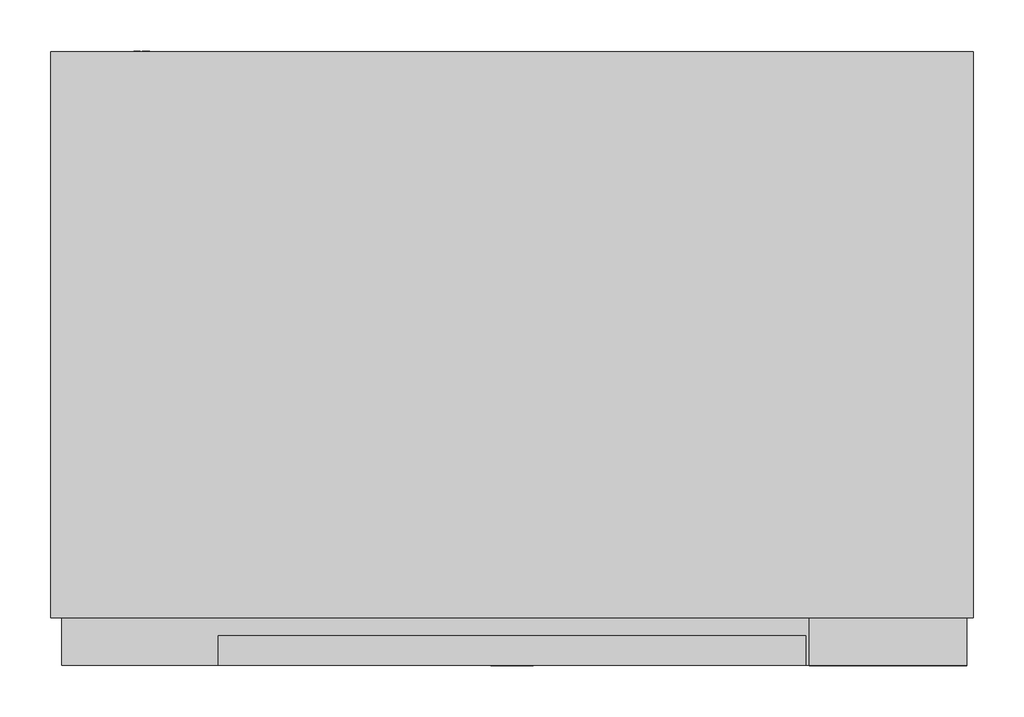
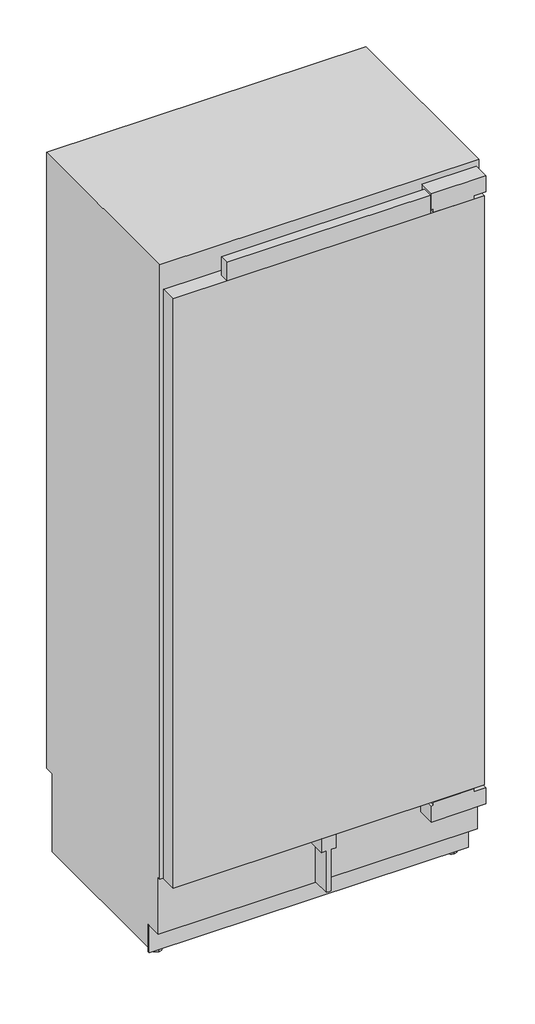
# Not in any storey: 1 proxy.
"""IFC4 building model written with IfcOpenShell, lengths in millimetres."""

import ifcopenshell
import ifcopenshell.guid

model = None  # the IFC model being written
_history = None  # IfcOwnerHistory: only IFC2X3 demands one
_inside = {}  # id of a spatial element -> (the spatial element, [elements in it])
_under = {}  # id of a project, library or spatial element -> (it, [spatial elements below it])
_declared = {}  # id of a project -> (the project, [libraries it declares])
_typed = {}  # id of a type object -> (the type object, [elements of that type])
_made_of = {}  # id of a material, layer set ... -> (it, [elements and type objects made of it])


def new_model(schema):
    """Start an empty IFC model of exactly this schema.

    Asked for "IFC4X3", IfcOpenShell would pick the latest addendum, in which some entities
    have other attributes; the version numbers below select the first issue.
    IFC2X3 requires an IfcOwnerHistory on every rooted entity: one is made here for all.
    """
    global model, _history
    if schema == "IFC4X3":
        model = ifcopenshell.file(schema_version=(4, 3, 0, 0))
    else:
        model = ifcopenshell.file(schema=schema)
    _inside.clear()
    _under.clear()
    _declared.clear()
    _typed.clear()
    _made_of.clear()
    _history = None
    if model.schema == "IFC2X3":
        org = make("IfcOrganization", Name="unknown")
        user = make(
            "IfcPersonAndOrganization",
            ThePerson=make("IfcPerson", FamilyName="unknown"),
            TheOrganization=org,
        )
        app = make(
            "IfcApplication",
            ApplicationDeveloper=org,
            Version="unknown",
            ApplicationFullName="unknown",
            ApplicationIdentifier="unknown",
        )
        _history = make(
            "IfcOwnerHistory",
            OwningUser=user,
            OwningApplication=app,
            ChangeAction="ADDED",
            CreationDate=0,
        )
    return model


def make(cls, **values):
    """One entity of the class cls with the attributes given. An attribute that is None is left unset."""
    return model.create_entity(
        cls, **{name: value for name, value in values.items() if value is not None}
    )


def rooted(cls, **values):
    """An entity with a GlobalId (a new one), such as an element, a storey or a relation."""
    return make(cls, GlobalId=ifcopenshell.guid.new(), OwnerHistory=_history, **values)


def si_unit(unit_type, name, prefix=None):
    """IfcSIUnit, for example si_unit("LENGTHUNIT", "METRE", prefix="MILLI")."""
    return make("IfcSIUnit", UnitType=unit_type, Prefix=prefix, Name=name)


def assignment(units):
    """IfcUnitAssignment: the units of a project."""
    return None if units is None else make("IfcUnitAssignment", Units=units)


def point(xyz):
    """IfcCartesianPoint."""
    return None if xyz is None else make("IfcCartesianPoint", Coordinates=xyz)


def direction(xyz):
    """IfcDirection."""
    return None if xyz is None else make("IfcDirection", DirectionRatios=xyz)


def frame(location, z_axis=None, x_axis=None):
    """IfcAxis2Placement3D, a coordinate frame: its origin and axes. An axis left out is left unset."""
    return make(
        "IfcAxis2Placement3D",
        Location=point(location),
        Axis=direction(z_axis),
        RefDirection=direction(x_axis),
    )


def frame_2d(location, x_axis=None):
    """IfcAxis2Placement2D, a coordinate frame in the plane: its origin and x axis."""
    return make(
        "IfcAxis2Placement2D", Location=point(location), RefDirection=direction(x_axis)
    )


def origin():
    """The frame at (0, 0, 0) with its axes left unset."""
    return frame((0.0, 0.0, 0.0))


def place(relative_to, where):
    """IfcLocalPlacement: puts the frame where relative to a parent placement (None: the world)."""
    return make(
        "IfcLocalPlacement", PlacementRelTo=relative_to, RelativePlacement=where
    )


def context(
    kind, dimensions, precision=None, world=None, true_north=None, identifier=None
):
    """IfcGeometricRepresentationContext, for example the 3D "Model" context."""
    return make(
        "IfcGeometricRepresentationContext",
        ContextIdentifier=identifier,
        ContextType=kind,
        CoordinateSpaceDimension=dimensions,
        Precision=precision,
        WorldCoordinateSystem=world,
        TrueNorth=true_north,
    )


def project(units=None, contexts=None):
    """IfcProject with its units and contexts."""
    return rooted(
        "IfcProject",
        Name="project",
        RepresentationContexts=contexts,
        UnitsInContext=assignment(units),
    )


def spatial(cls, under=None, at=None, **own):
    """A site, building, storey or space (cls), placed at a placement, below another one or the project."""
    s = rooted(cls, ObjectPlacement=at, **own)
    if under is not None:
        _under.setdefault(under.id(), (under, []))[1].append(s)
    return s


def polyline(points):
    """IfcPolyline through the points."""
    return make("IfcPolyline", Points=[point(p) for p in points])


def circle_curve(where, radius):
    """IfcCircle in the frame where."""
    return make("IfcCircle", Position=where, Radius=radius)


def trimmed(basis, trim1, trim2, sense, master):
    """IfcTrimmedCurve: the piece of a basis curve between two trims."""
    return make(
        "IfcTrimmedCurve",
        BasisCurve=basis,
        Trim1=trim1,
        Trim2=trim2,
        SenseAgreement=sense,
        MasterRepresentation=master,
    )


def segment(curve, same_sense, transition):
    """IfcCompositeCurveSegment."""
    return make(
        "IfcCompositeCurveSegment",
        Transition=transition,
        SameSense=same_sense,
        ParentCurve=curve,
    )


def composite_curve(segments, self_intersect=None):
    """IfcCompositeCurve: segments joined end to end."""
    return make("IfcCompositeCurve", Segments=segments, SelfIntersect=self_intersect)


def outline(outer, holes=None, kind="AREA"):
    """IfcArbitraryClosedProfileDef: a profile drawn as a closed curve; with holes, ...WithVoids."""
    if holes is None:
        return make("IfcArbitraryClosedProfileDef", ProfileType=kind, OuterCurve=outer)
    return make(
        "IfcArbitraryProfileDefWithVoids",
        ProfileType=kind,
        OuterCurve=outer,
        InnerCurves=holes,
    )


def extrude(swept, where, along, depth):
    """IfcExtrudedAreaSolid: the profile swept, set in the frame where, extruded along a direction by depth."""
    return make(
        "IfcExtrudedAreaSolid",
        SweptArea=swept,
        Position=where,
        ExtrudedDirection=direction(along),
        Depth=depth,
    )


def shape(context_of_items, identifier, shape_type, items):
    """IfcShapeRepresentation: the items that make up one representation, for example the "Body"."""
    return make(
        "IfcShapeRepresentation",
        ContextOfItems=context_of_items,
        RepresentationIdentifier=identifier,
        RepresentationType=shape_type,
        Items=items,
    )


def source(mapping_origin, context_of_items, identifier, shape_type, items):
    """IfcRepresentationMap: a shape defined once, which mapped items show again and again."""
    return make(
        "IfcRepresentationMap",
        MappingOrigin=mapping_origin,
        MappedRepresentation=shape(context_of_items, identifier, shape_type, items),
    )


def transform(
    local_origin,
    x_axis=None,
    y_axis=None,
    z_axis=None,
    scale=None,
    scale2=None,
    scale3=None,
    uniform=True,
):
    """IfcCartesianTransformationOperator3D, or its non-uniform kind. x_axis, y_axis, z_axis: its Axis1, 2, 3."""
    if uniform:
        return make(
            "IfcCartesianTransformationOperator3D",
            Axis1=direction(x_axis),
            Axis2=direction(y_axis),
            LocalOrigin=point(local_origin),
            Scale=scale,
            Axis3=direction(z_axis),
        )
    return make(
        "IfcCartesianTransformationOperator3DnonUniform",
        Axis1=direction(x_axis),
        Axis2=direction(y_axis),
        LocalOrigin=point(local_origin),
        Scale=scale,
        Axis3=direction(z_axis),
        Scale2=scale2,
        Scale3=scale3,
    )


def mapped(mapping_source, mapping_target):
    """IfcMappedItem: shows the shape of a source again, moved by a transform."""
    return make(
        "IfcMappedItem", MappingSource=mapping_source, MappingTarget=mapping_target
    )


def made_of(thing, what):
    """Note that an element or type object is made of a material, layer set ...; save() writes the relation."""
    if what is not None:
        _made_of.setdefault(what.id(), (what, []))[1].append(thing)
    return thing


def element(
    cls,
    number,
    at=None,
    inside=None,
    cuts=None,
    type_object=None,
    material=None,
    context=None,
    identifier="Body",
    shape_type=None,
    held_by="IfcProductDefinitionShape",
    body=None,
    shapes=None,
    **own,
):
    """One element of the class cls, such as IfcWall. Its Tag is "e" and its number.

    at: its placement. inside: the storey or other place that contains it. cuts: it is an
    opening in that element (IfcRelVoidsElement). A single representation is given by context,
    identifier, shape_type and body (its items); several are given by shapes. held_by: the class
    of the entity that holds the representations. save() writes the other relations.
    """
    e = rooted(cls, Tag="e%d" % number, ObjectPlacement=at, **own)
    if body is not None:
        shapes = [shape(context, identifier, shape_type, body)]
    if shapes is not None:
        e.Representation = make(held_by, Representations=shapes)
    if inside is not None:
        _inside.setdefault(inside.id(), (inside, []))[1].append(e)
    if cuts is not None:
        rooted(
            "IfcRelVoidsElement", RelatingBuildingElement=cuts, RelatedOpeningElement=e
        )
    if type_object is not None:
        _typed.setdefault(type_object.id(), (type_object, []))[1].append(e)
    return made_of(e, material)


def aggregate(whole, parts):
    """IfcRelAggregates: a whole, such as a stair, and the parts it consists of."""
    return rooted("IfcRelAggregates", RelatingObject=whole, RelatedObjects=parts)


def save(model, path):
    """Write the relations noted so far, then the file.

    IfcRelAggregates (storeys below a building ...), IfcRelContainedInSpatialStructure (elements
    in a storey), IfcRelDefinesByType, IfcRelAssociatesMaterial and IfcRelDeclares: one each for
    every whole, place, type object, material and project.
    """
    for whole, parts in _under.values():
        aggregate(whole, parts)
    for where, things in _inside.values():
        rooted(
            "IfcRelContainedInSpatialStructure",
            RelatedElements=things,
            RelatingStructure=where,
        )
    for kind, things in _typed.values():
        rooted("IfcRelDefinesByType", RelatedObjects=things, RelatingType=kind)
    for what, things in _made_of.values():
        rooted("IfcRelAssociatesMaterial", RelatedObjects=things, RelatingMaterial=what)
    for by, libraries in _declared.values():
        rooted("IfcRelDeclares", RelatingContext=by, RelatedDefinitions=libraries)
    model.write(path)


def plane_surface(at):
    """IfcPlane: the flat surface through the origin of the frame at, square to its z axis."""
    return make("IfcPlane", Position=at)


def cylinder_surface(at, radius):
    """IfcCylindricalSurface: all points at the distance radius from the z axis of the frame at."""
    return make("IfcCylindricalSurface", Position=at, Radius=radius)


def advanced_brep(points, edges, surfaces, faces):
    """IfcAdvancedBrep: a solid bounded by faces that lie on surfaces and meet in shared edges.

    An edge is (start, end): straight between two places in points (the first is 0);
    or (start, end, curve); or (start, end, curve, False) where it runs against its curve.
    A face is (place in surfaces, loops), or (place, loops, False) where it looks against
    its surface's normal. A loop lists edges by number (the first is 1), with a minus sign
    where the edge is run from its end to its start. The first loop is the outer one.
    """
    corners = [point(p) for p in points]
    vertices = [make("IfcVertexPoint", VertexGeometry=c) for c in corners]
    made = []
    for start, end, *more in edges:
        made.append(
            make(
                "IfcEdgeCurve",
                EdgeStart=vertices[start],
                EdgeEnd=vertices[end],
                EdgeGeometry=more[0] if more else make("IfcPolyline", Points=[corners[start], corners[end]]),
                SameSense=more[1] if len(more) > 1 else True,
            )
        )
    hull = []
    for where, loops, *sense in faces:
        bounds = []
        for j, loop in enumerate(loops):
            ring = [make("IfcOrientedEdge", EdgeElement=made[abs(k) - 1], Orientation=k > 0) for k in loop]
            bounds.append(
                make(
                    "IfcFaceOuterBound" if j == 0 else "IfcFaceBound",
                    Bound=make("IfcEdgeLoop", EdgeList=ring),
                    Orientation=True,
                )
            )
        hull.append(make("IfcAdvancedFace", Bounds=bounds, FaceSurface=surfaces[where], SameSense=sense[0] if sense else True))
    return make("IfcAdvancedBrep", Outer=make("IfcClosedShell", CfsFaces=hull))


def specialty_equipment_2c75883b(model_context):
    return source(origin(), model_context, "Body", "SolidModel", [
        extrude(outline(polyline([(-443.0, 47.0), (443.0, 47.0), (443.0, 0.0), (-443.0, 0.0), (-443.0, 47.0)])), frame((0.0, 0.0, 265.0), z_axis=(0.0, 0.0, 1.0), x_axis=(1.0, 0.0, 0.0)), (0.0, 0.0, 1.0), 1771.0),
        extrude(outline(polyline([(-289.0, 29.0), (289.0, 29.0), (289.0, 0.0), (-289.0, 0.0), (-289.0, 29.0)])), frame((0.0, 0.0, 2036.0), z_axis=(0.0, 0.0, 1.0), x_axis=(1.0, 0.0, 0.0)), (0.0, 0.0, 1.0), 56.0),
        extrude(outline(polyline([(265.0, 21.0), (265.0, 0.0), (265.0, -21.0), (224.0, -21.0), (224.0, -6.5), (99.0, -6.5), (99.0, 0.0), (99.0, 6.5), (224.0, 6.5), (224.0, 21.0), (265.0, 21.0)])), frame((0.0, 0.0, 0.0), z_axis=(0.0, 1.0, 0.0), x_axis=(0.0, 0.0, 1.0)), (0.0, 0.0, 1.0), 54.0),
        extrude(outline(polyline([(87.0, 1998.0), (544.0, 1998.0), (544.0, 1791.0), (475.0, 1791.0), (447.0, 1868.0), (201.3701279, 1868.0), (156.3150905, 1940.0880598), (87.0, 1949.0), (87.0, 1998.0)])), frame((-408.0, 0.0, 0.0), z_axis=(1.0, 0.0, 0.0), x_axis=(0.0, 1.0, 0.0)), (0.0, 0.0, 1.0), 816.0),
        extrude(outline(polyline([(196.9886114, 1875.0), (195.809433, 1875.0), (158.6921935, 1934.4), (159.8713719, 1934.4), (196.9886114, 1875.0)])), frame((-69.0, 0.0, 0.0), z_axis=(1.0, 0.0, 0.0), x_axis=(0.0, 1.0, 0.0)), (0.0, 0.0, 1.0), 138.0),
        extrude(outline(polyline([(2095.0, 447.5), (2095.0, 292.5), (2047.0, 292.5), (2047.0, 298.5), (2036.5, 298.5), (2036.5, 413.5), (2047.0, 413.5), (2047.0, 447.5), (2095.0, 447.5)])), frame((0.0, 0.0, 0.0), z_axis=(0.0, 1.0, 0.0), x_axis=(0.0, 0.0, 1.0)), (0.0, 0.0, 1.0), 47.0),
        extrude(outline(polyline([(254.0, 292.5), (206.0, 292.5), (206.0, 447.5), (254.0, 447.5), (254.0, 413.5), (264.0, 413.5), (264.0, 298.5), (254.0, 298.5), (254.0, 292.5)])), frame((0.0, 0.0, 0.0), z_axis=(0.0, 1.0, 0.0), x_axis=(0.0, 0.0, 1.0)), (0.0, 0.0, 1.0), 54.0),
        extrude(outline(polyline([(99.0373308, -363.7645771), (97.7615342, -363.7645771), (97.7615342, -357.8195541), (94.7968516, -357.8195541), (94.7968516, -363.469579), (93.5246295, -363.469579), (93.5246295, -357.8415693), (90.2570046, -357.8415693), (90.2570046, -363.9619689), (88.9546219, -363.9619689), (88.9546219, -356.5443524), (99.0373308, -356.5443524), (99.0373308, -363.7645771)])), frame((0.0, 604.0, 0.0), z_axis=(0.0, 1.0, 0.0), x_axis=(0.0, 0.0, 1.0)), (0.0, 0.0, 1.0), 1.0),
        extrude(outline(polyline([(99.0458, -367.0619704), (90.2663944, -367.0619704), (90.2663944, -372.1145879), (89.0134802, -372.1145879), (89.0134802, -365.8423809), (99.0458, -365.8423809), (99.0458, -367.0619704)])), frame((0.0, 604.0, 0.0), z_axis=(0.0, 1.0, 0.0), x_axis=(0.0, 0.0, 1.0)), (0.0, 0.0, 1.0), 1.0),
        extrude(outline(composite_curve([segment(trimmed(circle_curve(frame_2d((94.0, -364.0)), 7.5), [point((86.5, -364.0))], [point((101.5, -364.0))], False, "CARTESIAN"), True, "CONTINUOUS"), segment(trimmed(circle_curve(frame_2d((94.0, -364.0)), 7.5), [point((101.5, -364.0))], [point((86.5, -364.0))], False, "CARTESIAN"), True, "CONTINUOUS")], self_intersect=False)), frame((0.0, 577.0, 0.0), z_axis=(0.0, 1.0, 0.0), x_axis=(0.0, 0.0, 1.0)), (0.0, 0.0, 1.0), 27.0),
        extrude(outline(polyline([(-454.0, 104.0), (454.0, 104.0), (454.0, 99.0), (-454.0, 99.0), (-454.0, 104.0)])), frame((0.0, 0.0, 14.0), z_axis=(0.0, 0.0, 1.0), x_axis=(1.0, 0.0, 0.0)), (0.0, 0.0, 1.0), 83.0),
        advanced_brep(
        [(-420.0, 139.0, 0.0), (-420.0, 109.0, 0.0), (-420.0, 139.0, 7.0), (-420.0, 109.0, 7.0), (-420.0, 128.7, 7.0), (-420.0, 119.3, 7.0), (-420.0, 128.7, 28.0), (-420.0, 119.3, 28.0)],
        [
            (0, 1, circle_curve(frame((-420.0, 124.0, 0.0), z_axis=(0.0, 0.0, -1.0), x_axis=(1.0, 0.0, 0.0)), 15.0)),
            (1, 0, circle_curve(frame((-420.0, 124.0, 0.0), z_axis=(0.0, 0.0, -1.0), x_axis=(1.0, 0.0, 0.0)), 15.0)),
            (2, 3, circle_curve(frame((-420.0, 124.0, 7.0), z_axis=(0.0, 0.0, 1.0), x_axis=(1.0, 0.0, 0.0)), 15.0)),
            (3, 2, circle_curve(frame((-420.0, 124.0, 7.0), z_axis=(0.0, 0.0, 1.0), x_axis=(1.0, 0.0, 0.0)), 15.0)),
            (4, 5, circle_curve(frame((-420.0, 124.0, 7.0), z_axis=(0.0, 0.0, -1.0), x_axis=(0.0, -1.0, 0.0)), 4.7)),
            (5, 4, circle_curve(frame((-420.0, 124.0, 7.0), z_axis=(0.0, 0.0, -1.0), x_axis=(0.0, -1.0, 0.0)), 4.7)),
            (0, 2),
            (3, 1),
            (6, 7, circle_curve(frame((-420.0, 124.0, 28.0), z_axis=(0.0, 0.0, 1.0), x_axis=(0.0, -1.0, 0.0)), 4.7)),
            (7, 6, circle_curve(frame((-420.0, 124.0, 28.0), z_axis=(0.0, 0.0, 1.0), x_axis=(0.0, -1.0, 0.0)), 4.7)),
            (7, 5),
            (4, 6),
        ],
        [
            plane_surface(frame((-405.0, 124.0, 0.0), z_axis=(0.0, 0.0, -1.0), x_axis=(0.0, -1.0, 0.0))),
            plane_surface(frame((-405.0, 124.0, 7.0), z_axis=(0.0, 0.0, 1.0), x_axis=(0.0, 1.0, 0.0))),
            cylinder_surface(frame((-420.0, 124.0, 7.0), z_axis=(0.0, 0.0, -1.0), x_axis=(1.0, 0.0, 0.0)), 15.0),
            plane_surface(frame((-420.0, 119.3, 28.0), z_axis=(0.0, 0.0, 1.0), x_axis=(1.0, 0.0, 0.0))),
            cylinder_surface(frame((-420.0, 124.0, 28.0), z_axis=(0.0, 0.0, -1.0), x_axis=(0.0, -1.0, 0.0)), 4.7),
        ],
        [
            (0, [[1, 2]]),
            (1, [[3, 4], [5, 6]]),
            (2, [[-1, 7, -4, 8]]),
            (2, [[-2, -8, -3, -7]]),
            (3, [[9, 10]]),
            (4, [[-10, 11, -5, 12]]),
            (4, [[-9, -12, -6, -11]]),
        ],
    ),
        advanced_brep(
        [(420.0, 139.0, 0.0), (420.0, 109.0, 0.0), (420.0, 139.0, 7.0), (420.0, 109.0, 7.0), (420.0, 128.7, 7.0), (420.0, 119.3, 7.0), (420.0, 128.7, 28.0), (420.0, 119.3, 28.0)],
        [
            (0, 1, circle_curve(frame((420.0, 124.0, 0.0), z_axis=(0.0, 0.0, -1.0), x_axis=(1.0, 0.0, 0.0)), 15.0)),
            (1, 0, circle_curve(frame((420.0, 124.0, 0.0), z_axis=(0.0, 0.0, -1.0), x_axis=(1.0, 0.0, 0.0)), 15.0)),
            (2, 3, circle_curve(frame((420.0, 124.0, 7.0), z_axis=(0.0, 0.0, 1.0), x_axis=(1.0, 0.0, 0.0)), 15.0)),
            (3, 2, circle_curve(frame((420.0, 124.0, 7.0), z_axis=(0.0, 0.0, 1.0), x_axis=(1.0, 0.0, 0.0)), 15.0)),
            (4, 5, circle_curve(frame((420.0, 124.0, 7.0), z_axis=(0.0, 0.0, -1.0), x_axis=(0.0, -1.0, 0.0)), 4.7)),
            (5, 4, circle_curve(frame((420.0, 124.0, 7.0), z_axis=(0.0, 0.0, -1.0), x_axis=(0.0, -1.0, 0.0)), 4.7)),
            (0, 2),
            (3, 1),
            (6, 7, circle_curve(frame((420.0, 124.0, 28.0), z_axis=(0.0, 0.0, 1.0), x_axis=(0.0, -1.0, 0.0)), 4.7)),
            (7, 6, circle_curve(frame((420.0, 124.0, 28.0), z_axis=(0.0, 0.0, 1.0), x_axis=(0.0, -1.0, 0.0)), 4.7)),
            (7, 5),
            (4, 6),
        ],
        [
            plane_surface(frame((-405.0, 124.0, 0.0), z_axis=(0.0, 0.0, -1.0), x_axis=(0.0, -1.0, 0.0))),
            plane_surface(frame((-405.0, 124.0, 7.0), z_axis=(0.0, 0.0, 1.0), x_axis=(0.0, 1.0, 0.0))),
            cylinder_surface(frame((420.0, 124.0, 7.0), z_axis=(0.0, 0.0, -1.0), x_axis=(1.0, 0.0, 0.0)), 15.0),
            plane_surface(frame((-420.0, 119.3, 28.0), z_axis=(0.0, 0.0, 1.0), x_axis=(1.0, 0.0, 0.0))),
            cylinder_surface(frame((420.0, 124.0, 28.0), z_axis=(0.0, 0.0, -1.0), x_axis=(0.0, -1.0, 0.0)), 4.7),
        ],
        [
            (0, [[1, 2]]),
            (1, [[3, 4], [5, 6]]),
            (2, [[-1, 7, -4, 8]]),
            (2, [[-2, -8, -3, -7]]),
            (3, [[9, 10]]),
            (4, [[-10, 11, -5, 12]]),
            (4, [[-9, -12, -6, -11]]),
        ],
    ),
        advanced_brep(
        [(454.0, 47.0, 2114.0), (454.0, 47.0, 267.0), (454.0, 54.0, 267.0), (454.0, 54.0, 97.0), (454.0, 104.0, 97.0), (454.0, 104.0, 28.0), (454.0, 577.0, 28.0), (454.0, 577.0, 263.0), (454.0, 604.0, 263.0), (454.0, 604.0, 2114.0), (-454.0, 47.0, 2114.0), (-454.0, 604.0, 2114.0), (-454.0, 604.0, 263.0), (-454.0, 577.0, 263.0), (-454.0, 577.0, 28.0), (-454.0, 104.0, 28.0), (-454.0, 104.0, 97.0), (-454.0, 54.0, 97.0), (-454.0, 54.0, 267.0), (-454.0, 47.0, 267.0), (394.0, 577.0, 28.0), (394.0, 577.0, 14.0), (-394.0, 577.0, 14.0), (-394.0, 577.0, 28.0), (394.0, 104.0, 14.0), (-394.0, 104.0, 14.0), (-394.0, 104.0, 28.0), (394.0, 104.0, 28.0), (408.0, 47.0, 1998.0), (408.0, 47.0, 343.0), (-408.0, 47.0, 343.0), (-408.0, 47.0, 1998.0), (408.0, 544.0, 1998.0), (-408.0, 544.0, 1998.0), (-408.0, 544.0, 343.0), (408.0, 544.0, 343.0), (-412.5, 202.8193473, 28.0), (-431.5, 202.8193473, 28.0), (-431.5, 153.1806527, 28.0), (-412.5, 153.1806527, 28.0), (-432.0, 525.8193473, 28.0), (-432.0, 476.1806527, 28.0), (-416.0, 476.1806527, 28.0), (-416.0, 525.8193473, 28.0), (431.5, 153.1806527, 28.0), (431.5, 202.8193473, 28.0), (412.5, 202.8193473, 28.0), (412.5, 153.1806527, 28.0), (416.0, 525.8193473, 28.0), (416.0, 476.1806527, 28.0), (432.0, 476.1806527, 28.0), (432.0, 525.8193473, 28.0), (-412.5, 203.0, 25.0), (-412.5, 153.0, 25.0), (-431.5, 153.0, 25.0), (-431.5, 203.0, 25.0), (-412.5, 178.0, 25.0), (-431.5, 178.0, 25.0), (431.5, 178.0, 25.0), (431.5, 153.0, 25.0), (431.5, 203.0, 25.0), (412.5, 203.0, 25.0), (412.5, 153.0, 25.0), (412.5, 178.0, 25.0), (-432.0, 526.0, 25.0), (-432.0, 476.0, 25.0), (-432.0, 501.0, 25.0), (-416.0, 526.0, 25.0), (-416.0, 476.0, 25.0), (-416.0, 501.0, 25.0), (416.0, 526.0, 25.0), (416.0, 476.0, 25.0), (416.0, 501.0, 25.0), (432.0, 526.0, 25.0), (432.0, 476.0, 25.0), (432.0, 501.0, 25.0)],
        [
            (0, 1),
            (1, 2),
            (2, 3),
            (3, 4),
            (4, 5),
            (5, 6),
            (6, 7),
            (7, 8),
            (8, 9),
            (9, 0),
            (10, 11),
            (11, 12),
            (12, 13),
            (13, 14),
            (14, 15),
            (15, 16),
            (16, 17),
            (17, 18),
            (18, 19),
            (19, 10),
            (9, 11),
            (10, 0),
            (8, 12),
            (7, 13),
            (6, 20),
            (20, 21),
            (21, 22),
            (22, 23),
            (23, 14),
            (21, 24),
            (24, 25),
            (25, 22),
            (4, 16),
            (15, 26),
            (26, 25),
            (24, 27),
            (27, 5),
            (3, 17),
            (2, 18),
            (1, 19),
            (28, 29),
            (29, 30),
            (30, 31),
            (31, 28),
            (32, 33),
            (33, 34),
            (34, 35),
            (35, 32),
            (35, 29),
            (28, 32),
            (34, 30),
            (33, 31),
            (23, 26),
            (36, 37),
            (37, 38),
            (38, 39),
            (39, 36),
            (40, 41),
            (41, 42),
            (42, 43),
            (43, 40),
            (27, 20),
            (44, 45),
            (45, 46),
            (46, 47),
            (47, 44),
            (48, 49),
            (49, 50),
            (50, 51),
            (51, 48),
            (52, 53, circle_curve(frame((-412.5, 178.0, 25.0), z_axis=(-1.0, 0.0, 0.0), x_axis=(0.0, -1.0, 0.0)), 25.0)),
            (53, 54),
            (54, 55, circle_curve(frame((-431.5, 178.0, 25.0), z_axis=(1.0, 0.0, 0.0), x_axis=(0.0, -1.0, 0.0)), 25.0)),
            (55, 52),
            (53, 39, circle_curve(frame((-412.5, 178.0, 25.0), z_axis=(-1.0, 0.0, 0.0), x_axis=(0.0, -1.0, 0.0)), 25.0)),
            (38, 54, circle_curve(frame((-431.5, 178.0, 25.0), z_axis=(1.0, 0.0, 0.0), x_axis=(0.0, -1.0, 0.0)), 25.0)),
            (55, 37, circle_curve(frame((-431.5, 178.0, 25.0), z_axis=(1.0, 0.0, 0.0), x_axis=(0.0, -1.0, 0.0)), 25.0)),
            (36, 52, circle_curve(frame((-412.5, 178.0, 25.0), z_axis=(-1.0, 0.0, 0.0), x_axis=(0.0, -1.0, 0.0)), 25.0)),
            (52, 56),
            (56, 53),
            (54, 57),
            (57, 55),
            (58, 59),
            (59, 60, circle_curve(frame((431.5, 178.0, 25.0), z_axis=(1.0, 0.0, 0.0), x_axis=(0.0, -1.0, 0.0)), 25.0)),
            (60, 58),
            (60, 45, circle_curve(frame((431.5, 178.0, 25.0), z_axis=(1.0, 0.0, 0.0), x_axis=(0.0, -1.0, 0.0)), 25.0)),
            (44, 59, circle_curve(frame((431.5, 178.0, 25.0), z_axis=(1.0, 0.0, 0.0), x_axis=(0.0, -1.0, 0.0)), 25.0)),
            (61, 62, circle_curve(frame((412.5, 178.0, 25.0), z_axis=(-1.0, 0.0, 0.0), x_axis=(0.0, -1.0, 0.0)), 25.0)),
            (62, 63),
            (63, 61),
            (62, 47, circle_curve(frame((412.5, 178.0, 25.0), z_axis=(-1.0, 0.0, 0.0), x_axis=(0.0, -1.0, 0.0)), 25.0)),
            (46, 61, circle_curve(frame((412.5, 178.0, 25.0), z_axis=(-1.0, 0.0, 0.0), x_axis=(0.0, -1.0, 0.0)), 25.0)),
            (64, 65, circle_curve(frame((-432.0, 501.0, 25.0), z_axis=(-1.0, 0.0, 0.0), x_axis=(0.0, -1.0, 0.0)), 25.0)),
            (65, 66),
            (66, 64),
            (65, 41, circle_curve(frame((-432.0, 501.0, 25.0), z_axis=(-1.0, 0.0, 0.0), x_axis=(0.0, -1.0, 0.0)), 25.0)),
            (40, 64, circle_curve(frame((-432.0, 501.0, 25.0), z_axis=(-1.0, 0.0, 0.0), x_axis=(0.0, -1.0, 0.0)), 25.0)),
            (64, 67),
            (67, 68, circle_curve(frame((-416.0, 501.0, 25.0), z_axis=(-1.0, 0.0, 0.0), x_axis=(0.0, -1.0, 0.0)), 25.0)),
            (68, 65),
            (43, 67, circle_curve(frame((-416.0, 501.0, 25.0), z_axis=(-1.0, 0.0, 0.0), x_axis=(0.0, -1.0, 0.0)), 25.0)),
            (68, 42, circle_curve(frame((-416.0, 501.0, 25.0), z_axis=(-1.0, 0.0, 0.0), x_axis=(0.0, -1.0, 0.0)), 25.0)),
            (67, 69),
            (69, 68),
            (70, 71, circle_curve(frame((416.0, 501.0, 25.0), z_axis=(-1.0, 0.0, 0.0), x_axis=(0.0, -1.0, 0.0)), 25.0)),
            (71, 72),
            (72, 70),
            (71, 49, circle_curve(frame((416.0, 501.0, 25.0), z_axis=(-1.0, 0.0, 0.0), x_axis=(0.0, -1.0, 0.0)), 25.0)),
            (48, 70, circle_curve(frame((416.0, 501.0, 25.0), z_axis=(-1.0, 0.0, 0.0), x_axis=(0.0, -1.0, 0.0)), 25.0)),
            (70, 73),
            (73, 74, circle_curve(frame((432.0, 501.0, 25.0), z_axis=(-1.0, 0.0, 0.0), x_axis=(0.0, -1.0, 0.0)), 25.0)),
            (74, 71),
            (51, 73, circle_curve(frame((432.0, 501.0, 25.0), z_axis=(-1.0, 0.0, 0.0), x_axis=(0.0, -1.0, 0.0)), 25.0)),
            (74, 50, circle_curve(frame((432.0, 501.0, 25.0), z_axis=(-1.0, 0.0, 0.0), x_axis=(0.0, -1.0, 0.0)), 25.0)),
            (73, 75),
            (75, 74),
            (59, 62),
            (61, 60),
        ],
        [
            plane_surface(frame((454.0, 604.0, 2114.0), z_axis=(1.0, 0.0, 0.0), x_axis=(0.0, -1.0, 0.0))),
            plane_surface(frame((-454.0, 604.0, 2114.0), z_axis=(-1.0, 0.0, 0.0), x_axis=(0.0, 1.0, 0.0))),
            plane_surface(frame((-454.0, 47.0, 2114.0), z_axis=(0.0, 0.0, 1.0), x_axis=(1.0, 0.0, 0.0))),
            plane_surface(frame((-454.0, 604.0, 2114.0), z_axis=(0.0, 1.0, 0.0), x_axis=(1.0, 0.0, 0.0))),
            plane_surface(frame((-454.0, 604.0, 263.0), z_axis=(0.0, 0.0, -1.0), x_axis=(1.0, 0.0, 0.0))),
            plane_surface(frame((-454.0, 577.0, 263.0), z_axis=(0.0, 1.0, 0.0), x_axis=(1.0, 0.0, 0.0))),
            plane_surface(frame((-454.0, 577.0, 14.0), z_axis=(0.0, 0.0, -1.0), x_axis=(1.0, 0.0, 0.0))),
            plane_surface(frame((-454.0, 104.0, 14.0), z_axis=(0.0, -1.0, 0.0), x_axis=(1.0, 0.0, 0.0))),
            plane_surface(frame((-454.0, 104.0, 97.0), z_axis=(0.0, 0.0, -1.0), x_axis=(1.0, 0.0, 0.0))),
            plane_surface(frame((-454.0, 54.0, 97.0), z_axis=(0.0, -1.0, 0.0), x_axis=(1.0, 0.0, 0.0))),
            plane_surface(frame((-454.0, 54.0, 267.0), z_axis=(0.0, 0.0, -1.0), x_axis=(1.0, 0.0, 0.0))),
            plane_surface(frame((-454.0, 47.0, 267.0), z_axis=(0.0, -1.0, 0.0), x_axis=(1.0, 0.0, 0.0))),
            plane_surface(frame((408.0, 544.0, 1998.0), z_axis=(0.0, -1.0, 0.0), x_axis=(0.0, 0.0, -1.0))),
            plane_surface(frame((408.0, 544.0, 1998.0), z_axis=(-1.0, 0.0, 0.0), x_axis=(0.0, -1.0, 0.0))),
            plane_surface(frame((408.0, 544.0, 343.0), z_axis=(0.0, 0.0, 1.0), x_axis=(0.0, -1.0, 0.0))),
            plane_surface(frame((-408.0, 544.0, 343.0), z_axis=(1.0, 0.0, 0.0), x_axis=(0.0, -1.0, 0.0))),
            plane_surface(frame((-408.0, 544.0, 1998.0), z_axis=(0.0, 0.0, -1.0), x_axis=(0.0, -1.0, 0.0))),
            plane_surface(frame((-454.0, 604.0, 28.0), z_axis=(0.0, 0.0, -1.0), x_axis=(-1.0, 0.0, 0.0))),
            plane_surface(frame((-394.0, 104.0, 28.0), z_axis=(-1.0, 0.0, 0.0), x_axis=(0.0, 0.0, -1.0))),
            plane_surface(frame((394.0, 604.0, 28.0), z_axis=(1.0, 0.0, 0.0), x_axis=(0.0, 0.0, -1.0))),
            cylinder_surface(frame((-546.6988927, 178.0, 25.0), z_axis=(1.0, 0.0, 0.0), x_axis=(0.0, -1.0, 0.0)), 25.0),
            plane_surface(frame((-412.5, 178.0, 25.0), z_axis=(1.0, 0.0, 0.0), x_axis=(0.0, -1.0, 0.0))),
            plane_surface(frame((-431.5, 178.0, 25.0), z_axis=(-1.0, 0.0, 0.0), x_axis=(0.0, -1.0, 0.0))),
            plane_surface(frame((431.5, 178.0, 25.0), z_axis=(1.0, 0.0, 0.0), x_axis=(0.0, -1.0, 0.0))),
            plane_surface(frame((412.5, 178.0, 25.0), z_axis=(-1.0, 0.0, 0.0), x_axis=(0.0, -1.0, 0.0))),
            plane_surface(frame((-432.0, 501.0, 25.0), z_axis=(-1.0, 0.0, 0.0), x_axis=(0.0, -1.0, 0.0))),
            cylinder_surface(frame((-546.6988927, 501.0, 25.0), z_axis=(1.0, 0.0, 0.0), x_axis=(0.0, -1.0, 0.0)), 25.0),
            plane_surface(frame((-416.0, 501.0, 25.0), z_axis=(1.0, 0.0, 0.0), x_axis=(0.0, -1.0, 0.0))),
            plane_surface(frame((416.0, 501.0, 25.0), z_axis=(-1.0, 0.0, 0.0), x_axis=(0.0, -1.0, 0.0))),
            plane_surface(frame((432.0, 501.0, 25.0), z_axis=(1.0, 0.0, 0.0), x_axis=(0.0, -1.0, 0.0))),
        ],
        [
            (0, [[1, 2, 3, 4, 5, 6, 7, 8, 9, 10]]),
            (1, [[11, 12, 13, 14, 15, 16, 17, 18, 19, 20]]),
            (2, [[-10, 21, -11, 22]]),
            (3, [[-9, 23, -12, -21]]),
            (4, [[-8, 24, -13, -23]]),
            (5, [[-24, -7, 25, 26, 27, 28, 29, -14]]),
            (6, [[-27, 30, 31, 32]]),
            (7, [[33, -16, 34, 35, -31, 36, 37, -5]]),
            (8, [[-4, 38, -17, -33]]),
            (9, [[-3, 39, -18, -38]]),
            (10, [[-2, 40, -19, -39]]),
            (11, [[-1, -22, -20, -40], [41, 42, 43, 44]]),
            (12, [[45, 46, 47, 48]]),
            (13, [[-48, 49, -41, 50]]),
            (14, [[-47, 51, -42, -49]]),
            (15, [[-46, 52, -43, -51]]),
            (16, [[-45, -50, -44, -52]]),
            (17, [[53, -34, -15, -29], [54, 55, 56, 57], [58, 59, 60, 61]]),
            (17, [[62, -25, -6, -37], [63, 64, 65, 66], [67, 68, 69, 70]]),
            (18, [[-53, -28, -32, -35]]),
            (19, [[-62, -36, -30, -26]]),
            (20, [[71, 72, 73, 74]]),
            (20, [[-72, 75, -56, 76]]),
            (20, [[-74, 77, -54, 78]]),
            (21, [[-71, 79, 80]]),
            (21, [[-80, -79, -78, -57, -75]]),
            (22, [[-73, 81, 82]]),
            (22, [[-81, -76, -55, -77, -82]]),
            (23, [[83, 84, 85]]),
            (23, [[-83, -85, 86, -63, 87]]),
            (24, [[88, 89, 90]]),
            (24, [[-89, 91, -65, 92, -90]]),
            (25, [[93, 94, 95]]),
            (25, [[-94, 96, -58, 97, -95]]),
            (26, [[-93, 98, 99, 100]]),
            (26, [[-98, -97, -61, 101]]),
            (26, [[-100, 102, -59, -96]]),
            (27, [[-99, 103, 104]]),
            (27, [[-104, -103, -101, -60, -102]]),
            (28, [[105, 106, 107]]),
            (28, [[-106, 108, -67, 109, -107]]),
            (26, [[-105, 110, 111, 112]]),
            (26, [[-110, -109, -70, 113]]),
            (26, [[-112, 114, -68, -108]]),
            (29, [[-111, 115, 116]]),
            (29, [[-116, -115, -113, -69, -114]]),
            (20, [[-84, 117, -88, 118]]),
            (20, [[-117, -87, -66, -91]]),
            (20, [[-118, -92, -64, -86]]),
        ],
    ),
    ])


model = new_model("IFC4")

# Units and contexts
model_context = context("Model", 3, world=origin())
ifc_project = project(units=[si_unit("LENGTHUNIT", "METRE", prefix="MILLI")], contexts=[model_context])

# Site, building
site = spatial("IfcSite", under=ifc_project)
building = spatial("IfcBuilding", under=site)

# Proxy
placement = place(None, origin())
specialty_equipment_shape = specialty_equipment_2c75883b(model_context)
element("IfcBuildingElementProxy", 1, Name="12169360_BR_K2902Vi : 36290201_BR_12169360_K2902Vi", ObjectType="12169360_BR_K2902Vi : 36290201_BR_12169360_K2902Vi", at=placement, inside=building, context=model_context, shape_type="MappedRepresentation", body=[
    mapped(specialty_equipment_shape, transform((0.0, 0.0, 0.0), x_axis=(1.0, 0.0, 0.0), y_axis=(0.0, 1.0, 0.0), z_axis=(0.0, 0.0, 1.0))),
])

save(model, "model.ifc")
